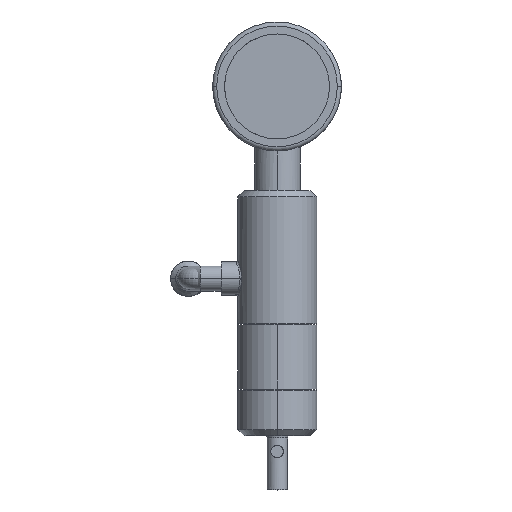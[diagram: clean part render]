
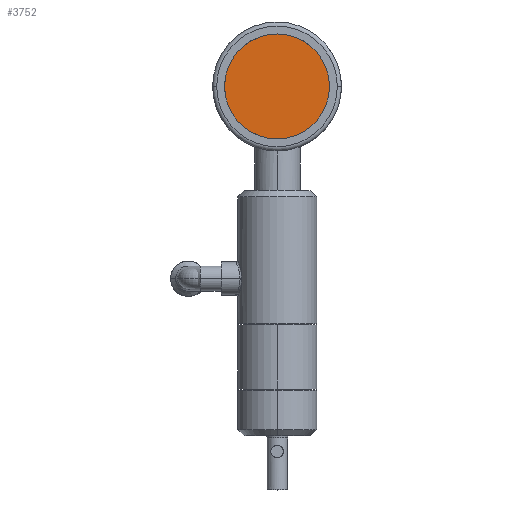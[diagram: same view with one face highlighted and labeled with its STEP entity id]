
A CAD part, top view. The second image highlights one B-rep face of the part: STEP entity #3752.
In plain terms, the highlighted planar face has unit normal (-0.005, 0, 1) as drawn and (0, 0, 1) by its records, which use the part's own axes.
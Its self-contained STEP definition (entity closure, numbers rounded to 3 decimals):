
#318 = DIRECTION ( 'NONE',  ( 0., 0., 1. ) ) ;
#788 = CARTESIAN_POINT ( 'NONE',  ( -25.25, 0., 38. ) ) ;
#1072 = VERTEX_POINT ( 'NONE', #788 ) ;
#1315 = DIRECTION ( 'NONE',  ( 0., 0., 1. ) ) ;
#1810 = VERTEX_POINT ( 'NONE', #6196 ) ;
#1941 = CIRCLE ( 'NONE', #7664, 25.25 ) ;
#2254 = PLANE ( 'NONE',  #2652 ) ;
#2285 = CARTESIAN_POINT ( 'NONE',  ( 0., 0., 38. ) ) ;
#2415 = ORIENTED_EDGE ( 'NONE', *, *, #6464, .T. ) ;
#2652 = AXIS2_PLACEMENT_3D ( 'NONE', #2285, #7189, #2980 ) ;
#2691 = ORIENTED_EDGE ( 'NONE', *, *, #4740, .T. ) ;
#2980 = DIRECTION ( 'NONE',  ( -1., 0., 0. ) ) ;
#3752 = ADVANCED_FACE ( 'NONE', ( #8429 ), #2254, .F. ) ;
#4504 = CARTESIAN_POINT ( 'NONE',  ( 0., 0., 38. ) ) ;
#4740 = EDGE_CURVE ( 'NONE', #1810, #1072, #1941, .T. ) ;
#5204 = DIRECTION ( 'NONE',  ( -1., 0., 0. ) ) ;
#5506 = CARTESIAN_POINT ( 'NONE',  ( 0., 0., 38. ) ) ;
#6196 = CARTESIAN_POINT ( 'NONE',  ( 25.25, 0., 38. ) ) ;
#6232 = DIRECTION ( 'NONE',  ( -1., 0., 0. ) ) ;
#6364 = CIRCLE ( 'NONE', #7672, 25.25 ) ;
#6464 = EDGE_CURVE ( 'NONE', #1072, #1810, #6364, .T. ) ;
#7189 = DIRECTION ( 'NONE',  ( 0., 0., -1. ) ) ;
#7664 = AXIS2_PLACEMENT_3D ( 'NONE', #5506, #1315, #6232 ) ;
#7672 = AXIS2_PLACEMENT_3D ( 'NONE', #4504, #318, #5204 ) ;
#8196 = EDGE_LOOP ( 'NONE', ( #2691, #2415 ) ) ;
#8429 = FACE_OUTER_BOUND ( 'NONE', #8196, .T. ) ;
